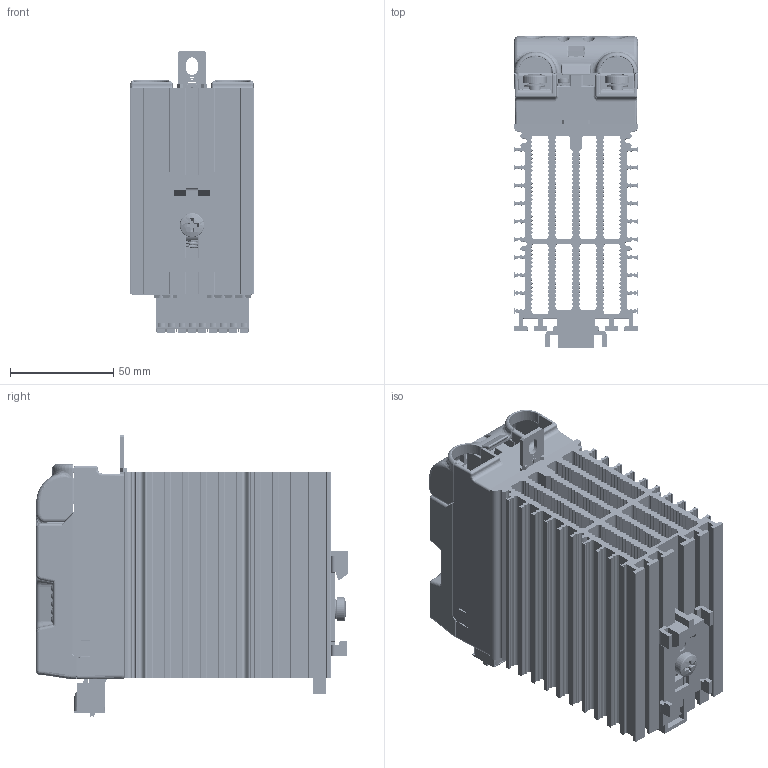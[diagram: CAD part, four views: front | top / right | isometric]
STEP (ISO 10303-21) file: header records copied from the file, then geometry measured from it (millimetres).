
FILE_DESCRIPTION((''),'2;1');
FILE_NAME('GTF_40_480','2019-07-18T15:57:34',('paolo.garatti'),('GEFRAN S.p.A via Carducci,24 21040 Gerenzano (VA)'),'CREO PARAMETRIC BY PTC INC, 2018300','CREO PARAMETRIC BY PTC INC, 2018300','');
FILE_SCHEMA(('AUTOMOTIVE_DESIGN { 1 0 10303 214 1 1 1 1 }'));
Products named in the file (51): 4898D_62097; 56386_LINGUETTA_TERRA_GTS60A; 47108_ROND_OND_D5; 48216_VITE_M5X14_DIN7985; 3674D_46223; 3917D_51760; 3946D_49238; 46101_OLD; 47020_ROND_ZIG_M6; 48000_VITE_TCB_CROSS_M6X10; 1960028_BARRA_DIN35; 51898_INVOLUCRO_BASE; 8S8D30; CTT128_CONTATTO_PWR; 5356D_CTT126; 51889_SCHERMO_ISOLANTE; 8S8B92; 43006_PULSANTE_90_W21X; OPTO_TRIAC-3P; LED; MAGNETE; SO8; OPTO_SFH6186; LH1510; SFH690BT; B6S; CHIP_MC9508AC60FJ; MC78FC50; 22507; 1923827; HEADER_2X6_PASSO2_AMTEK; R100; 72005; 56469_3X2_MMT103-01-T-DH-P; SONDA_TEMP; 1910429_1; BASEBOARD_GTX; 56095_CONN_RJ11_4V_90; SWITCH_2VIE_PIANO_UP; 43539_ROTARY_SWITCH_1248_90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
Assembly tree (76 placements, depth 3):
  GTF_40_480
    4898D_62097
    56386_LINGUETTA_TERRA_GTS60A
    47108_ROND_OND_D5
    48216_VITE_M5X14_DIN7985  x3
    1960028_BARRA_DIN35
      3674D_46223
      3917D_51760
      3946D_49238
      46101_OLD
      47020_ROND_ZIG_M6
      48000_VITE_TCB_CROSS_M6X10
    51898_INVOLUCRO_BASE
    8S8D30  x2
    CTT128_CONTATTO_PWR  x2
    48000_VITE_TCB_CROSS_M6X10  x2
    47020_ROND_ZIG_M6  x2
    5356D_CTT126  x4
    51889_SCHERMO_ISOLANTE
    8S8B92
    BASEBOARD_GTX
      43006_PULSANTE_90_W21X
      OPTO_TRIAC-3P  x2
      LED  x5
      MAGNETE
      SO8  x3
      OPTO_SFH6186
      LH1510
      SFH690BT
      B6S
      CHIP_MC9508AC60FJ
      MC78FC50
      22507
      1923827
      HEADER_2X6_PASSO2_AMTEK
      R100
      72005
      56469_3X2_MMT103-01-T-DH-P
      SONDA_TEMP
      1910429_1
    GTF_SERIALE_RS485
      MAGNETE
      22507
      56095_CONN_RJ11_4V_90  x2
      SWITCH_2VIE_PIANO_UP
      43539_ROTARY_SWITCH_1248_90  x2
      FEMALE_HEADER_2X6_PASSO2
    1455D_48213
    DIS00969_1
      DIS009691_518991
      DIS00969_P1
    DIS00847_51100_OLD  x5
    342467_PIASTRINA
    51900_COPERCHIO_POWER
    51909_SPORTELLINO_PROG
Bounding box: 60.11 x 151.05 x 136.95 mm (x, y, z)
Volume: 336134 mm3; surface area: 293411.1 mm2
Topology: 223 solids, 223 shells, 14089 faces, 37574 edges, 24144 vertices
Faces by surface type: plane 8472, cylinder 3428, extrusion 880, bspline 532, torus 425, cone 238, sphere 114
Entity records: 540795 total; most frequent: CARTESIAN_POINT 112679, ORIENTED_EDGE 64870, DIRECTION 58454, EDGE_CURVE 32435, PRESENTATION_STYLE_ASSIGNMENT 31867, STYLED_ITEM 31144, CURVE_STYLE 27937, VECTOR 23176
